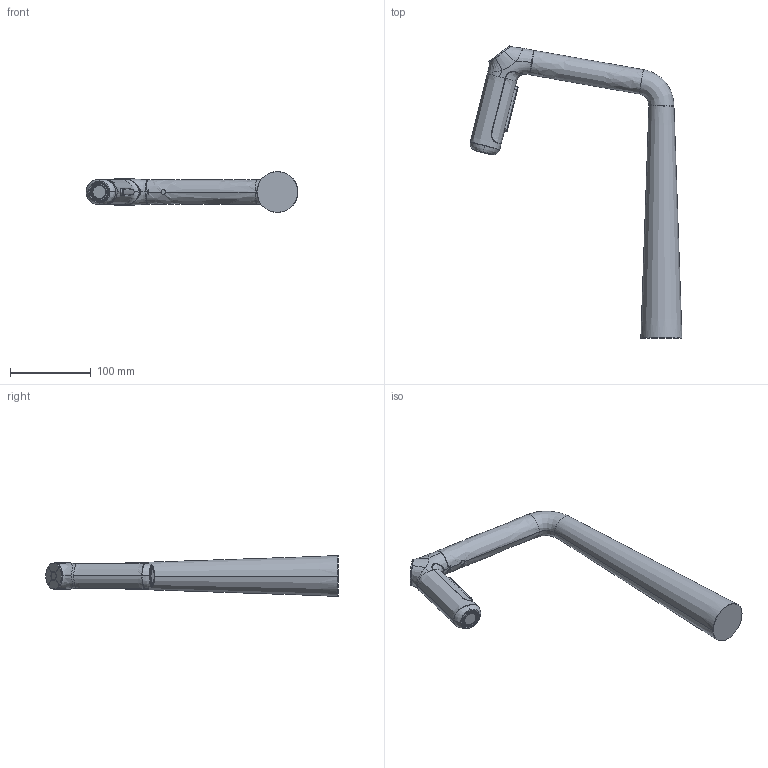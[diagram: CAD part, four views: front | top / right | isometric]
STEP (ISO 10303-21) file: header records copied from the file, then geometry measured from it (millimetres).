
FILE_DESCRIPTION((''),'2;1');
FILE_NAME('10481232','2020-04-22T17:26:09',('BD984'),(''),'CREO PARAMETRIC BY PTC INC, 2018500','CREO PARAMETRIC BY PTC INC, 2018500','');
FILE_SCHEMA(('CONFIG_CONTROL_DESIGN'));
Length unit declared in the file: millimetre
Products named in the file (1): 10481232
Bounding box: 261.96 x 361.32 x 50.78 mm (x, y, z)
Volume: 652998.6 mm3; surface area: 73994.1 mm2
Topology: 1 solids, 1 shells, 557 faces, 1374 edges, 844 vertices
Faces by surface type: cylinder 207, torus 179, bspline 98, plane 62, cone 6, extrusion 5
Entity records: 28534 total; most frequent: CARTESIAN_POINT 15798, ORIENTED_EDGE 2748, DIRECTION 2640, EDGE_CURVE 1374, AXIS2_PLACEMENT_3D 1141, VERTEX_POINT 844, CIRCLE 687, EDGE_LOOP 582
